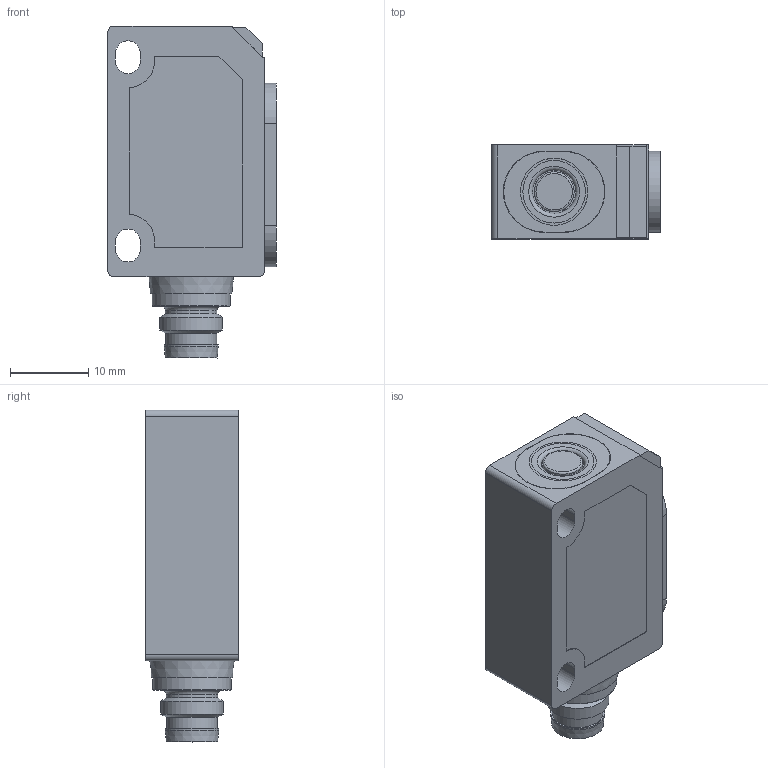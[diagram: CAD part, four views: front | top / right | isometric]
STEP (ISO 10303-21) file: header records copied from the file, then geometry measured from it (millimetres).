
FILE_DESCRIPTION(/* description */ (''),/* implementation_level */ '2;1');
FILE_NAME(/* name */ 'O:\Archiv\ARCHIV\153\3D-Model Kunde (DXF, IGS, SAT)\15300391_UT20.stp',/* time_stamp */ '2016-04-13T06:59:59+02:00',/* author */ ('richard.steimel'),/* organization */ (''),/* preprocessor_version */ 'ST-DEVELOPER v16.1',/* originating_system */ 'AutoCAD Mechanical',/* authorisation */ '');
FILE_SCHEMA (('AUTOMOTIVE_DESIGN { 1 0 10303 214 3 1 1 }'));
Length unit declared in the file: millimetre
Products named in the file (1): Product
Bounding box: 21.6 x 12 x 42.5 mm (x, y, z)
Volume: 8284.3 mm3; surface area: 4722.1 mm2
Topology: 7 solids, 7 shells, 147 faces, 340 edges, 219 vertices
Faces by surface type: plane 75, cylinder 50, torus 12, cone 8, bspline 2
Full cylindrical faces by diameter (mm): 5.12 x1, 5.52 x1, 6.5 x1, 6.6 x1, 6.9 x1, 7.6 x1, 8 x1, 8.6 x1, 8.602 x1, 9.3 x2, 10 x1
Entity records: 4189 total; most frequent: CARTESIAN_POINT 829, DIRECTION 716, ORIENTED_EDGE 632, EDGE_CURVE 316, AXIS2_PLACEMENT_3D 268, VERTEX_POINT 217, EDGE_LOOP 189, LINE 180
